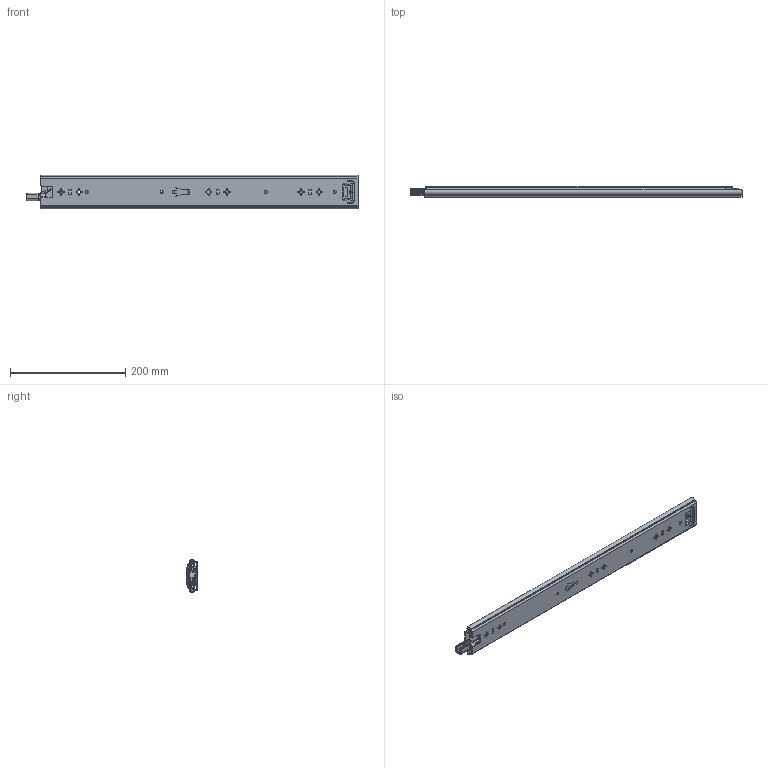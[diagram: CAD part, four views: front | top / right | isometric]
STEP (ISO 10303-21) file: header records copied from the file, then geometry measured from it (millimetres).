
FILE_DESCRIPTION((''),'2;1');
FILE_NAME('KP-57-01ZUZHUANGTU-22_ASM','2023-03-30T',('jishu015'),(''),'PRO/ENGINEER BY PARAMETRIC TECHNOLOGY CORPORATION, 2010280','PRO/ENGINEER BY PARAMETRIC TECHNOLOGY CORPORATION, 2010280','');
FILE_SCHEMA(('CONFIG_CONTROL_DESIGN'));
Products named in the file (22): KP-57-01WEIKE-18_______________; 1057WEIJIAO_______________; WAIKE______________ASM; KP-57-01ZHONGGUI-26__; ZHONGGUIPEIJIAN-11_____________; ZHONGGUISUOKOU-11_____________; KP-57-01ZHONGGUI-26___ASM; 1057XIAOZHUJIA_______________; 1057-5-6GANZHU_______________; 1057XIAOZHUJIA-14GE26___ASM; KP-57-01NEIGUI-22; PJ-57-08_____________; DIAOPIAN-11_____________; 50XINSUOKOU-1_____________; TANHUANG_____________; 1053-3SBANJI122___________; JIAO11___________; KP-57-01NEIGUI-22_ASM; 1053ZHUTIAO-275__; 53-5-6GANZHU___________________; 1053ZHUTIAO-175MM______________ASM; KP-57-01ZUZHUANGTU-22_ASM
Assembly tree (65 placements, depth 3):
  KP-57-01ZUZHUANGTU-22_ASM
    WAIKE______________ASM
      KP-57-01WEIKE-18_______________
      1057WEIJIAO_______________
    KP-57-01ZHONGGUI-26___ASM
      KP-57-01ZHONGGUI-26__
      ZHONGGUIPEIJIAN-11_____________
      ZHONGGUISUOKOU-11_____________
    1057XIAOZHUJIA-14GE26___ASM
      1057XIAOZHUJIA_______________
      1057-5-6GANZHU_______________  x36
    KP-57-01NEIGUI-22_ASM
      KP-57-01NEIGUI-22
      PJ-57-08_____________
      DIAOPIAN-11_____________
      50XINSUOKOU-1_____________
      TANHUANG_____________
      1053-3SBANJI122___________
      JIAO11___________
    1053ZHUTIAO-175MM______________ASM  x2
      1053ZHUTIAO-275__
      53-5-6GANZHU___________________
Bounding box: 575.42 x 19 x 57.67 mm (x, y, z)
Volume: 240868.2 mm3; surface area: 261666.3 mm2
Topology: 71 solids, 71 shells, 2002 faces, 5725 edges, 3588 vertices
Faces by surface type: cylinder 842, plane 839, sphere 119, bspline 94, cone 60, torus 25, extrusion 23
Entity records: 65895 total; most frequent: CARTESIAN_POINT 16649, ORIENTED_EDGE 10418, DIRECTION 10116, EDGE_CURVE 5209, AXIS2_PLACEMENT_3D 3492, VERTEX_POINT 3360, VECTOR 3132, LINE 3109
